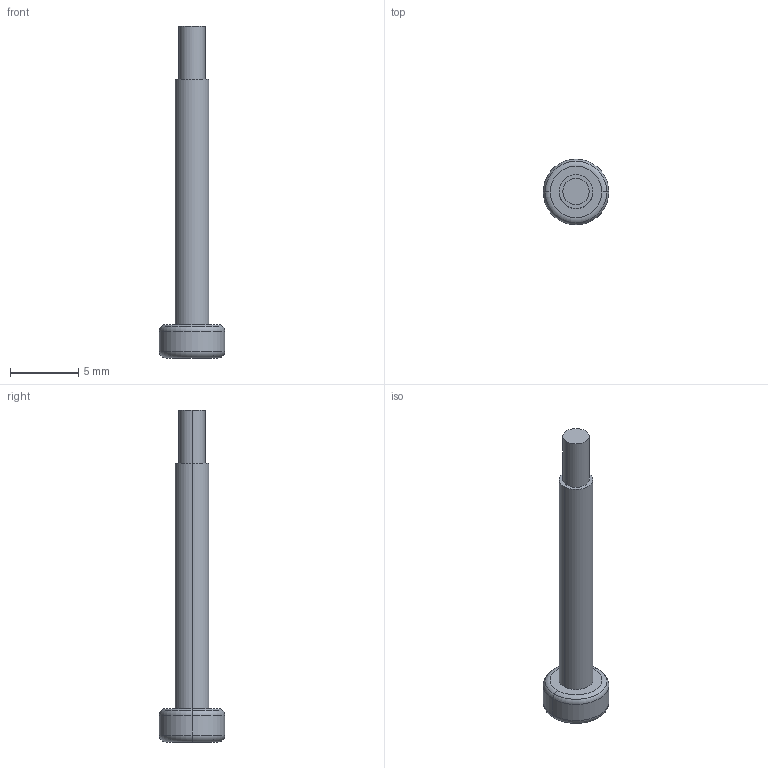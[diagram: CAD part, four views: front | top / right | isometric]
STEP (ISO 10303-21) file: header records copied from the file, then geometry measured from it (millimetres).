
FILE_DESCRIPTION((''),'2;1');
FILE_NAME('M2X2_5X20_SHSS_MACHINE_SCREW_-_','2024-05-15T17:25:35',('qinghui.yi'),(''),'CREO PARAMETRIC BY PTC INC, 2019164','CREO PARAMETRIC BY PTC INC, 2019164','');
FILE_SCHEMA(('CONFIG_CONTROL_DESIGN','SHAPE_APPEARANCE_LAYERS_GROUPS'));
Length unit declared in the file: millimetre
Products named in the file (1): M2X2_5X20_SHSS_MACHINE_SCREW_-_
Bounding box: 4.8 x 4.8 x 24.3 mm (x, y, z)
Volume: 135.6 mm3; surface area: 236.5 mm2
Topology: 1 solids, 1 shells, 25 faces, 55 edges, 38 vertices
Faces by surface type: plane 11, torus 8, cylinder 6
Entity records: 1234 total; most frequent: COLOUR_RGB 313, DIRECTION 135, CARTESIAN_POINT 113, ORIENTED_EDGE 104, PRESENTATION_STYLE_ASSIGNMENT 57, STYLED_ITEM 57, CURVE_STYLE 56, AXIS2_PLACEMENT_3D 54
